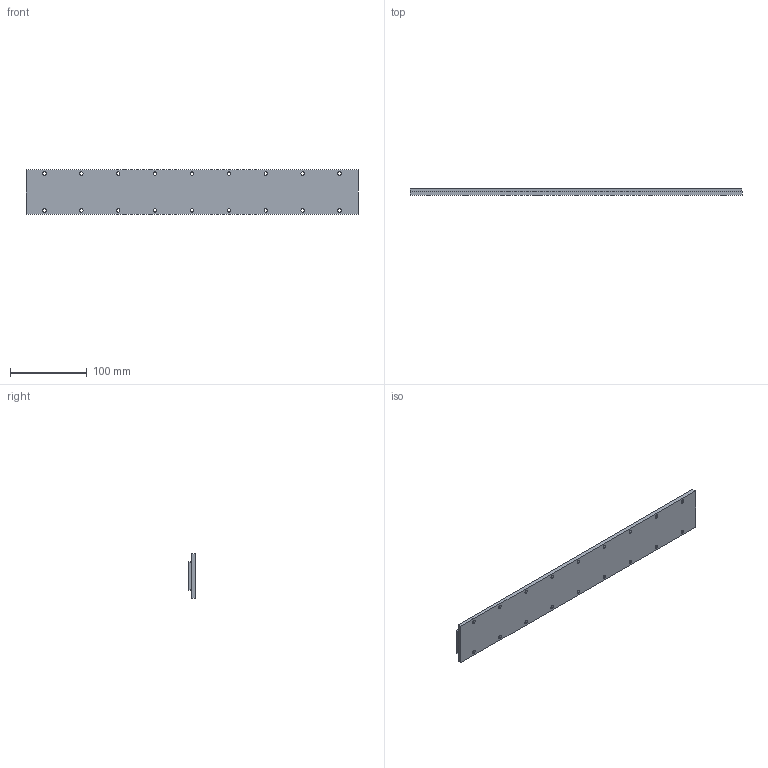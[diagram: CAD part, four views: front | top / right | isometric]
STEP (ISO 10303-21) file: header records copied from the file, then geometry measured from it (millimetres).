
FILE_DESCRIPTION (( 'STEP AP203' ), '1' );
FILE_NAME ('CS432.STEP', '2025-12-28T08:04:47', ( '' ), ( '' ), 'SwSTEP 2.0', 'SolidWorks 2024', '' );
FILE_SCHEMA (( 'CONFIG_CONTROL_DESIGN' ));
Length unit declared in the file: millimetre
Products named in the file (1): CS432
Bounding box: 432 x 8.7 x 58 mm (x, y, z)
Volume: 180241.1 mm3; surface area: 66317.9 mm2
Topology: 1 solids, 1 shells, 143 faces, 344 edges, 224 vertices
Faces by surface type: cylinder 76, plane 55, bspline 12
Entity records: 4575 total; most frequent: CARTESIAN_POINT 1020, DIRECTION 736, ORIENTED_EDGE 688, EDGE_CURVE 344, AXIS2_PLACEMENT_3D 284, VERTEX_POINT 224, EDGE_LOOP 200, VECTOR 168
